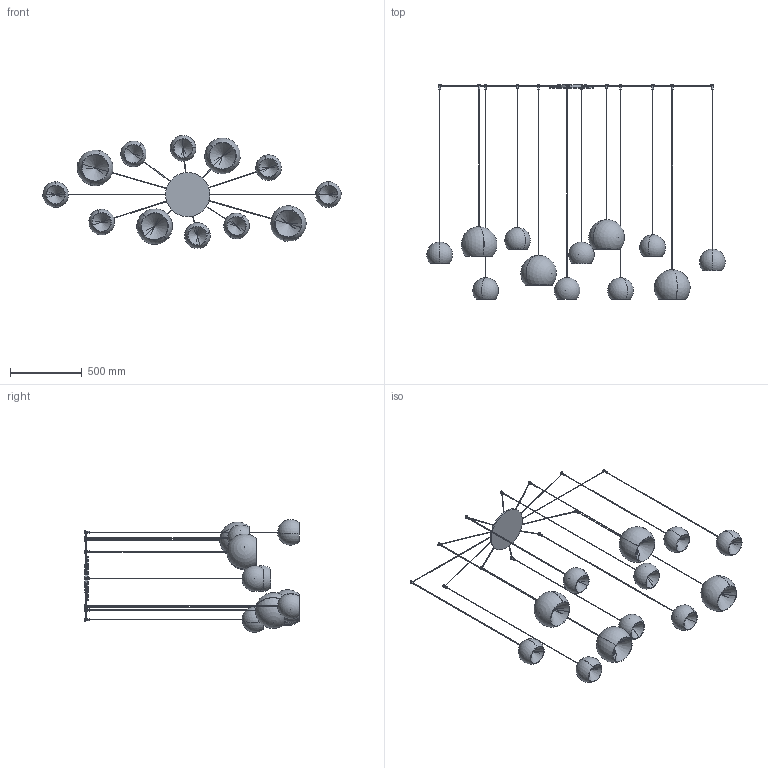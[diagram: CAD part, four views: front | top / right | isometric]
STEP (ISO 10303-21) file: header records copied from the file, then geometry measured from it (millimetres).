
FILE_DESCRIPTION (( 'STEP AP203' ), '1' );
FILE_NAME ('CRMA1_CHERRY MIX_12 sospensione.STEP', '2025-05-20T13:09:59', ( '' ), ( '' ), 'SwSTEP 2.0', 'SolidWorks 2022', '' );
FILE_SCHEMA (( 'CONFIG_CONTROL_DESIGN' ));
Length unit declared in the file: millimetre
Products named in the file (11): CHERRY_Lampada singola_Cherry 180 | H=1850; CHERRY_Lampada singola_Cherry 180 | H=1800; CHERRY_Lampada singola_Cherry 180 | H=1500; CHERRY_Lampada singola_Cherry 250 | H=1600; CHERRY_Lampada singola_Cherry 180 | H=1700; CHERRY_Lampada singola_Cherry 250 | H=1500; CHERRY_Lampada singola_Cherry 180 | H=1750; CHERRY_Lampada singola_Cherry 250 | H=1800; CRMA1_CHERRY MIX_12 sospensione; CHERRY_Rosone_Cherry 12 (x 3400)<A macchina>; CHERRY_Lampada singola_Cherry 250 | H=1850
Assembly tree (13 placements, depth 2):
  CRMA1_CHERRY MIX_12 sospensione
    CHERRY_Rosone_Cherry 12 (x 3400)<A macchina>
    CHERRY_Lampada singola_Cherry 180 | H=1750  x2
    CHERRY_Lampada singola_Cherry 250 | H=1800
    CHERRY_Lampada singola_Cherry 180 | H=1850
    CHERRY_Lampada singola_Cherry 180 | H=1500  x3
    CHERRY_Lampada singola_Cherry 250 | H=1850
    CHERRY_Lampada singola_Cherry 180 | H=1800
    CHERRY_Lampada singola_Cherry 180 | H=1700
    CHERRY_Lampada singola_Cherry 250 | H=1500
    CHERRY_Lampada singola_Cherry 250 | H=1600
Bounding box: 2087 x 1500 x 790.53 mm (x, y, z)
Volume: 4427046 mm3; surface area: 3727873.8 mm2
Topology: 61 solids, 61 shells, 449 faces, 1070 edges, 672 vertices
Faces by surface type: cylinder 206, plane 147, sphere 48, cone 48
Entity records: 11017 total; most frequent: CARTESIAN_POINT 2339, DIRECTION 1712, ORIENTED_EDGE 1408, AXIS2_PLACEMENT_3D 761, EDGE_CURVE 704, VERTEX_POINT 468, CIRCLE 392, EDGE_LOOP 390
